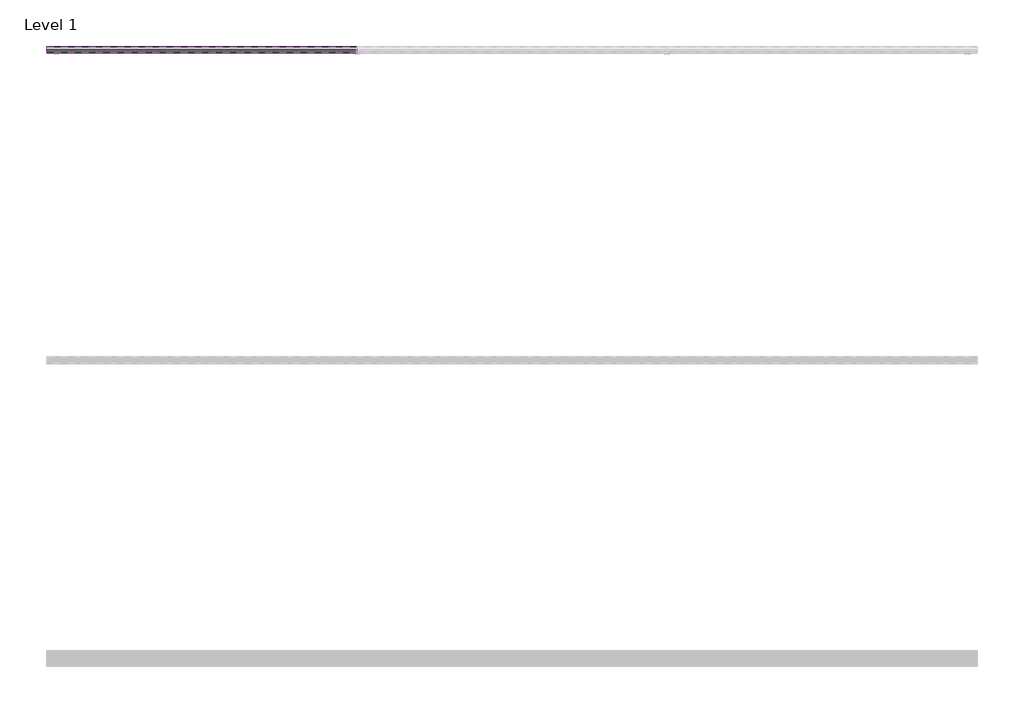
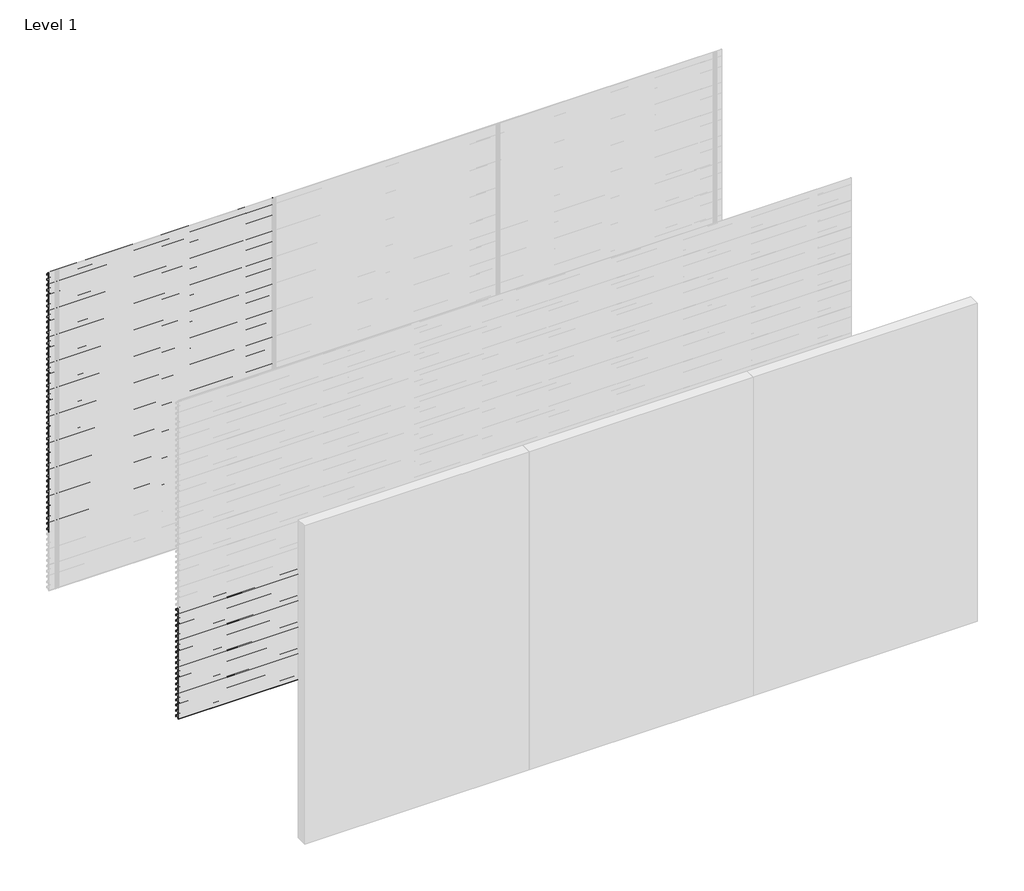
# One storey, part 36 of 38: 70 proxies.
"""IFC4 building model written with IfcOpenShell, lengths in millimetres."""

from ifc_helpers import new_model, si_unit, frame, origin, place, context, project, spatial, polyline, outline, extrude, element, save

model = new_model("IFC4")

# Units and contexts
model_context = context("Model", 3, world=origin())
ifc_project = project(units=[si_unit("LENGTHUNIT", "METRE", prefix="MILLI")], contexts=[model_context])

# Site, building, storey
site = spatial("IfcSite", under=ifc_project)
building = spatial("IfcBuilding", under=site)
storey = spatial("IfcBuildingStorey", under=building, Name="Level 1", Elevation=0.0)

# Proxies
placement = place(None, origin())
element("IfcBuildingElementProxy", 1, Name="Wall Sweeps", at=placement, inside=storey, context=model_context, shape_type="SweptSolid", body=[
    extrude(outline(polyline([(3.25, 3000.0), (3.25, 2989.19656), (25.3942887, 2976.4115489), (43.0, 2959.0472005), (43.0, 2944.0472005), (41.7, 2945.0268207), (41.7, 2958.5034593), (30.5085275, 2969.541504), (5.7202624, 2940.0), (4.0232329, 2940.0), (29.5799693, 2970.4573323), (24.6000207, 2975.3690091), (2.0, 2988.4171371), (2.0, 3000.0), (3.25, 3000.0)])), frame((0.0, 0.0, 0.0), z_axis=(1.0, 0.0, 0.0), x_axis=(0.0, 1.0, 0.0)), (0.0, 0.0, 1.0), 2000.0),
])
element("IfcBuildingElementProxy", 2, Name="Wall Sweeps", at=placement, inside=storey, context=model_context, shape_type="SweptSolid", body=[
    extrude(outline(polyline([(3.25, 2950.0), (3.25, 2939.19656), (25.3942887, 2926.4115489), (43.0, 2909.0472005), (43.0, 2894.0472005), (41.7, 2895.0268207), (41.7, 2908.5034593), (30.5085275, 2919.541504), (5.7202624, 2890.0), (4.0232329, 2890.0), (29.5799693, 2920.4573323), (24.6000207, 2925.3690091), (2.0, 2938.4171371), (2.0, 2950.0), (3.25, 2950.0)])), frame((0.0, 0.0, 0.0), z_axis=(1.0, 0.0, 0.0), x_axis=(0.0, 1.0, 0.0)), (0.0, 0.0, 1.0), 2000.0),
])
element("IfcBuildingElementProxy", 3, Name="Wall Sweeps", at=placement, inside=storey, context=model_context, shape_type="SweptSolid", body=[
    extrude(outline(polyline([(3.25, 2900.0), (3.25, 2889.19656), (25.3942887, 2876.4115489), (43.0, 2859.0472005), (43.0, 2844.0472005), (41.7, 2845.0268207), (41.7, 2858.5034593), (30.5085275, 2869.541504), (5.7202624, 2840.0), (4.0232329, 2840.0), (29.5799693, 2870.4573323), (24.6000207, 2875.3690091), (2.0, 2888.4171371), (2.0, 2900.0), (3.25, 2900.0)])), frame((0.0, 0.0, 0.0), z_axis=(1.0, 0.0, 0.0), x_axis=(0.0, 1.0, 0.0)), (0.0, 0.0, 1.0), 2000.0),
])
element("IfcBuildingElementProxy", 4, Name="Wall Sweeps", at=placement, inside=storey, context=model_context, shape_type="SweptSolid", body=[
    extrude(outline(polyline([(3.25, 2850.0), (3.25, 2839.19656), (25.3942887, 2826.4115489), (43.0, 2809.0472005), (43.0, 2794.0472005), (41.7, 2795.0268207), (41.7, 2808.5034593), (30.5085275, 2819.541504), (5.7202624, 2790.0), (4.0232329, 2790.0), (29.5799693, 2820.4573323), (24.6000207, 2825.3690091), (2.0, 2838.4171371), (2.0, 2850.0), (3.25, 2850.0)])), frame((0.0, 0.0, 0.0), z_axis=(1.0, 0.0, 0.0), x_axis=(0.0, 1.0, 0.0)), (0.0, 0.0, 1.0), 2000.0),
])
element("IfcBuildingElementProxy", 5, Name="Wall Sweeps", at=placement, inside=storey, context=model_context, shape_type="SweptSolid", body=[
    extrude(outline(polyline([(3.25, 2800.0), (3.25, 2789.19656), (25.3942887, 2776.4115489), (43.0, 2759.0472005), (43.0, 2744.0472005), (41.7, 2745.0268207), (41.7, 2758.5034593), (30.5085275, 2769.541504), (5.7202624, 2740.0), (4.0232329, 2740.0), (29.5799693, 2770.4573323), (24.6000207, 2775.3690091), (2.0, 2788.4171371), (2.0, 2800.0), (3.25, 2800.0)])), frame((0.0, 0.0, 0.0), z_axis=(1.0, 0.0, 0.0), x_axis=(0.0, 1.0, 0.0)), (0.0, 0.0, 1.0), 2000.0),
])
element("IfcBuildingElementProxy", 6, Name="Wall Sweeps", at=placement, inside=storey, context=model_context, shape_type="SweptSolid", body=[
    extrude(outline(polyline([(3.25, 2750.0), (3.25, 2739.19656), (25.3942887, 2726.4115489), (43.0, 2709.0472005), (43.0, 2694.0472005), (41.7, 2695.0268207), (41.7, 2708.5034593), (30.5085275, 2719.541504), (5.7202624, 2690.0), (4.0232329, 2690.0), (29.5799693, 2720.4573323), (24.6000207, 2725.3690091), (2.0, 2738.4171371), (2.0, 2750.0), (3.25, 2750.0)])), frame((0.0, 0.0, 0.0), z_axis=(1.0, 0.0, 0.0), x_axis=(0.0, 1.0, 0.0)), (0.0, 0.0, 1.0), 2000.0),
])
element("IfcBuildingElementProxy", 7, Name="Wall Sweeps", at=placement, inside=storey, context=model_context, shape_type="SweptSolid", body=[
    extrude(outline(polyline([(3.25, 2700.0), (3.25, 2689.19656), (25.3942887, 2676.4115489), (43.0, 2659.0472005), (43.0, 2644.0472005), (41.7, 2645.0268207), (41.7, 2658.5034593), (30.5085275, 2669.541504), (5.7202624, 2640.0), (4.0232329, 2640.0), (29.5799693, 2670.4573323), (24.6000207, 2675.3690091), (2.0, 2688.4171371), (2.0, 2700.0), (3.25, 2700.0)])), frame((0.0, 0.0, 0.0), z_axis=(1.0, 0.0, 0.0), x_axis=(0.0, 1.0, 0.0)), (0.0, 0.0, 1.0), 2000.0),
])
element("IfcBuildingElementProxy", 8, Name="Wall Sweeps", at=placement, inside=storey, context=model_context, shape_type="SweptSolid", body=[
    extrude(outline(polyline([(3.25, 2650.0), (3.25, 2639.19656), (25.3942887, 2626.4115489), (43.0, 2609.0472005), (43.0, 2594.0472005), (41.7, 2595.0268207), (41.7, 2608.5034593), (30.5085275, 2619.541504), (5.7202624, 2590.0), (4.0232329, 2590.0), (29.5799693, 2620.4573323), (24.6000207, 2625.3690091), (2.0, 2638.4171371), (2.0, 2650.0), (3.25, 2650.0)])), frame((0.0, 0.0, 0.0), z_axis=(1.0, 0.0, 0.0), x_axis=(0.0, 1.0, 0.0)), (0.0, 0.0, 1.0), 2000.0),
])
element("IfcBuildingElementProxy", 9, Name="Wall Sweeps", at=placement, inside=storey, context=model_context, shape_type="SweptSolid", body=[
    extrude(outline(polyline([(3.25, 2600.0), (3.25, 2589.19656), (25.3942887, 2576.4115489), (43.0, 2559.0472005), (43.0, 2544.0472005), (41.7, 2545.0268207), (41.7, 2558.5034593), (30.5085275, 2569.541504), (5.7202624, 2540.0), (4.0232329, 2540.0), (29.5799693, 2570.4573323), (24.6000207, 2575.3690091), (2.0, 2588.4171371), (2.0, 2600.0), (3.25, 2600.0)])), frame((0.0, 0.0, 0.0), z_axis=(1.0, 0.0, 0.0), x_axis=(0.0, 1.0, 0.0)), (0.0, 0.0, 1.0), 2000.0),
])
element("IfcBuildingElementProxy", 10, Name="Wall Sweeps", at=placement, inside=storey, context=model_context, shape_type="SweptSolid", body=[
    extrude(outline(polyline([(3.25, 2550.0), (3.25, 2539.19656), (25.3942887, 2526.4115489), (43.0, 2509.0472005), (43.0, 2494.0472005), (41.7, 2495.0268207), (41.7, 2508.5034593), (30.5085275, 2519.541504), (5.7202624, 2490.0), (4.0232329, 2490.0), (29.5799693, 2520.4573323), (24.6000207, 2525.3690091), (2.0, 2538.4171371), (2.0, 2550.0), (3.25, 2550.0)])), frame((0.0, 0.0, 0.0), z_axis=(1.0, 0.0, 0.0), x_axis=(0.0, 1.0, 0.0)), (0.0, 0.0, 1.0), 2000.0),
])
element("IfcBuildingElementProxy", 11, Name="Wall Sweeps", at=placement, inside=storey, context=model_context, shape_type="SweptSolid", body=[
    extrude(outline(polyline([(3.25, 2500.0), (3.25, 2489.19656), (25.3942887, 2476.4115489), (43.0, 2459.0472005), (43.0, 2444.0472005), (41.7, 2445.0268207), (41.7, 2458.5034593), (30.5085275, 2469.541504), (5.7202624, 2440.0), (4.0232329, 2440.0), (29.5799693, 2470.4573323), (24.6000207, 2475.3690091), (2.0, 2488.4171371), (2.0, 2500.0), (3.25, 2500.0)])), frame((0.0, 0.0, 0.0), z_axis=(1.0, 0.0, 0.0), x_axis=(0.0, 1.0, 0.0)), (0.0, 0.0, 1.0), 2000.0),
])
element("IfcBuildingElementProxy", 12, Name="Wall Sweeps", at=placement, inside=storey, context=model_context, shape_type="SweptSolid", body=[
    extrude(outline(polyline([(3.25, 2450.0), (3.25, 2439.19656), (25.3942887, 2426.4115489), (43.0, 2409.0472005), (43.0, 2394.0472005), (41.7, 2395.0268207), (41.7, 2408.5034593), (30.5085275, 2419.541504), (5.7202624, 2390.0), (4.0232329, 2390.0), (29.5799693, 2420.4573323), (24.6000207, 2425.3690091), (2.0, 2438.4171371), (2.0, 2450.0), (3.25, 2450.0)])), frame((0.0, 0.0, 0.0), z_axis=(1.0, 0.0, 0.0), x_axis=(0.0, 1.0, 0.0)), (0.0, 0.0, 1.0), 2000.0),
])
element("IfcBuildingElementProxy", 13, Name="Wall Sweeps", at=placement, inside=storey, context=model_context, shape_type="SweptSolid", body=[
    extrude(outline(polyline([(3.25, 2400.0), (3.25, 2389.19656), (25.3942887, 2376.4115489), (43.0, 2359.0472005), (43.0, 2344.0472005), (41.7, 2345.0268207), (41.7, 2358.5034593), (30.5085275, 2369.541504), (5.7202624, 2340.0), (4.0232329, 2340.0), (29.5799693, 2370.4573323), (24.6000207, 2375.3690091), (2.0, 2388.4171371), (2.0, 2400.0), (3.25, 2400.0)])), frame((0.0, 0.0, 0.0), z_axis=(1.0, 0.0, 0.0), x_axis=(0.0, 1.0, 0.0)), (0.0, 0.0, 1.0), 2000.0),
])
element("IfcBuildingElementProxy", 14, Name="Wall Sweeps", at=placement, inside=storey, context=model_context, shape_type="SweptSolid", body=[
    extrude(outline(polyline([(3.25, 2350.0), (3.25, 2339.19656), (25.3942887, 2326.4115489), (43.0, 2309.0472005), (43.0, 2294.0472005), (41.7, 2295.0268207), (41.7, 2308.5034593), (30.5085275, 2319.541504), (5.7202624, 2290.0), (4.0232329, 2290.0), (29.5799693, 2320.4573323), (24.6000207, 2325.3690091), (2.0, 2338.4171371), (2.0, 2350.0), (3.25, 2350.0)])), frame((0.0, 0.0, 0.0), z_axis=(1.0, 0.0, 0.0), x_axis=(0.0, 1.0, 0.0)), (0.0, 0.0, 1.0), 2000.0),
])
element("IfcBuildingElementProxy", 15, Name="Wall Sweeps", at=placement, inside=storey, context=model_context, shape_type="SweptSolid", body=[
    extrude(outline(polyline([(3.25, 2300.0), (3.25, 2289.19656), (25.3942887, 2276.4115489), (43.0, 2259.0472005), (43.0, 2244.0472005), (41.7, 2245.0268207), (41.7, 2258.5034593), (30.5085275, 2269.541504), (5.7202624, 2240.0), (4.0232329, 2240.0), (29.5799693, 2270.4573323), (24.6000207, 2275.3690091), (2.0, 2288.4171371), (2.0, 2300.0), (3.25, 2300.0)])), frame((0.0, 0.0, 0.0), z_axis=(1.0, 0.0, 0.0), x_axis=(0.0, 1.0, 0.0)), (0.0, 0.0, 1.0), 2000.0),
])
element("IfcBuildingElementProxy", 16, Name="Wall Sweeps", at=placement, inside=storey, context=model_context, shape_type="SweptSolid", body=[
    extrude(outline(polyline([(3.25, 2250.0), (3.25, 2239.19656), (25.3942887, 2226.4115489), (43.0, 2209.0472005), (43.0, 2194.0472005), (41.7, 2195.0268207), (41.7, 2208.5034593), (30.5085275, 2219.541504), (5.7202624, 2190.0), (4.0232329, 2190.0), (29.5799693, 2220.4573323), (24.6000207, 2225.3690091), (2.0, 2238.4171371), (2.0, 2250.0), (3.25, 2250.0)])), frame((0.0, 0.0, 0.0), z_axis=(1.0, 0.0, 0.0), x_axis=(0.0, 1.0, 0.0)), (0.0, 0.0, 1.0), 2000.0),
])
element("IfcBuildingElementProxy", 17, Name="Wall Sweeps", at=placement, inside=storey, context=model_context, shape_type="SweptSolid", body=[
    extrude(outline(polyline([(3.25, 2200.0), (3.25, 2189.19656), (25.3942887, 2176.4115489), (43.0, 2159.0472005), (43.0, 2144.0472005), (41.7, 2145.0268207), (41.7, 2158.5034593), (30.5085275, 2169.541504), (5.7202624, 2140.0), (4.0232329, 2140.0), (29.5799693, 2170.4573323), (24.6000207, 2175.3690091), (2.0, 2188.4171371), (2.0, 2200.0), (3.25, 2200.0)])), frame((0.0, 0.0, 0.0), z_axis=(1.0, 0.0, 0.0), x_axis=(0.0, 1.0, 0.0)), (0.0, 0.0, 1.0), 2000.0),
])
element("IfcBuildingElementProxy", 18, Name="Wall Sweeps", at=placement, inside=storey, context=model_context, shape_type="SweptSolid", body=[
    extrude(outline(polyline([(3.25, 2150.0), (3.25, 2139.19656), (25.3942887, 2126.4115489), (43.0, 2109.0472005), (43.0, 2094.0472005), (41.7, 2095.0268207), (41.7, 2108.5034593), (30.5085275, 2119.541504), (5.7202624, 2090.0), (4.0232329, 2090.0), (29.5799693, 2120.4573323), (24.6000207, 2125.3690091), (2.0, 2138.4171371), (2.0, 2150.0), (3.25, 2150.0)])), frame((0.0, 0.0, 0.0), z_axis=(1.0, 0.0, 0.0), x_axis=(0.0, 1.0, 0.0)), (0.0, 0.0, 1.0), 2000.0),
])
element("IfcBuildingElementProxy", 19, Name="Wall Sweeps", at=placement, inside=storey, context=model_context, shape_type="SweptSolid", body=[
    extrude(outline(polyline([(3.25, 2100.0), (3.25, 2089.19656), (25.3942887, 2076.4115489), (43.0, 2059.0472005), (43.0, 2044.0472005), (41.7, 2045.0268207), (41.7, 2058.5034593), (30.5085275, 2069.541504), (5.7202624, 2040.0), (4.0232329, 2040.0), (29.5799693, 2070.4573323), (24.6000207, 2075.3690091), (2.0, 2088.4171371), (2.0, 2100.0), (3.25, 2100.0)])), frame((0.0, 0.0, 0.0), z_axis=(1.0, 0.0, 0.0), x_axis=(0.0, 1.0, 0.0)), (0.0, 0.0, 1.0), 2000.0),
])
element("IfcBuildingElementProxy", 20, Name="Wall Sweeps", at=placement, inside=storey, context=model_context, shape_type="SweptSolid", body=[
    extrude(outline(polyline([(3.25, 2050.0), (3.25, 2039.19656), (25.3942887, 2026.4115489), (43.0, 2009.0472005), (43.0, 1994.0472005), (41.7, 1995.0268207), (41.7, 2008.5034593), (30.5085275, 2019.541504), (5.7202624, 1990.0), (4.0232329, 1990.0), (29.5799693, 2020.4573323), (24.6000207, 2025.3690091), (2.0, 2038.4171371), (2.0, 2050.0), (3.25, 2050.0)])), frame((0.0, 0.0, 0.0), z_axis=(1.0, 0.0, 0.0), x_axis=(0.0, 1.0, 0.0)), (0.0, 0.0, 1.0), 2000.0),
])
element("IfcBuildingElementProxy", 21, Name="Wall Sweeps", at=placement, inside=storey, context=model_context, shape_type="SweptSolid", body=[
    extrude(outline(polyline([(3.25, 2000.0), (3.25, 1989.19656), (25.3942887, 1976.4115489), (43.0, 1959.0472005), (43.0, 1944.0472005), (41.7, 1945.0268207), (41.7, 1958.5034593), (30.5085275, 1969.541504), (5.7202624, 1940.0), (4.0232329, 1940.0), (29.5799693, 1970.4573323), (24.6000207, 1975.3690091), (2.0, 1988.4171371), (2.0, 2000.0), (3.25, 2000.0)])), frame((0.0, 0.0, 0.0), z_axis=(1.0, 0.0, 0.0), x_axis=(0.0, 1.0, 0.0)), (0.0, 0.0, 1.0), 2000.0),
])
element("IfcBuildingElementProxy", 22, Name="Wall Sweeps", at=placement, inside=storey, context=model_context, shape_type="SweptSolid", body=[
    extrude(outline(polyline([(3.25, 1950.0), (3.25, 1939.19656), (25.3942887, 1926.4115489), (43.0, 1909.0472005), (43.0, 1894.0472005), (41.7, 1895.0268207), (41.7, 1908.5034593), (30.5085275, 1919.541504), (5.7202624, 1890.0), (4.0232329, 1890.0), (29.5799693, 1920.4573323), (24.6000207, 1925.3690091), (2.0, 1938.4171371), (2.0, 1950.0), (3.25, 1950.0)])), frame((0.0, 0.0, 0.0), z_axis=(1.0, 0.0, 0.0), x_axis=(0.0, 1.0, 0.0)), (0.0, 0.0, 1.0), 2000.0),
])
element("IfcBuildingElementProxy", 23, Name="Wall Sweeps", at=placement, inside=storey, context=model_context, shape_type="SweptSolid", body=[
    extrude(outline(polyline([(3.25, 1900.0), (3.25, 1889.19656), (25.3942887, 1876.4115489), (43.0, 1859.0472005), (43.0, 1844.0472005), (41.7, 1845.0268207), (41.7, 1858.5034593), (30.5085275, 1869.541504), (5.7202624, 1840.0), (4.0232329, 1840.0), (29.5799693, 1870.4573323), (24.6000207, 1875.3690091), (2.0, 1888.4171371), (2.0, 1900.0), (3.25, 1900.0)])), frame((0.0, 0.0, 0.0), z_axis=(1.0, 0.0, 0.0), x_axis=(0.0, 1.0, 0.0)), (0.0, 0.0, 1.0), 2000.0),
])
element("IfcBuildingElementProxy", 24, Name="Wall Sweeps", at=placement, inside=storey, context=model_context, shape_type="SweptSolid", body=[
    extrude(outline(polyline([(3.25, 1850.0), (3.25, 1839.19656), (25.3942887, 1826.4115489), (43.0, 1809.0472005), (43.0, 1794.0472005), (41.7, 1795.0268207), (41.7, 1808.5034593), (30.5085275, 1819.541504), (5.7202624, 1790.0), (4.0232329, 1790.0), (29.5799693, 1820.4573323), (24.6000207, 1825.3690091), (2.0, 1838.4171371), (2.0, 1850.0), (3.25, 1850.0)])), frame((0.0, 0.0, 0.0), z_axis=(1.0, 0.0, 0.0), x_axis=(0.0, 1.0, 0.0)), (0.0, 0.0, 1.0), 2000.0),
])
element("IfcBuildingElementProxy", 25, Name="Wall Sweeps", at=placement, inside=storey, context=model_context, shape_type="SweptSolid", body=[
    extrude(outline(polyline([(3.25, 1800.0), (3.25, 1789.19656), (25.3942887, 1776.4115489), (43.0, 1759.0472005), (43.0, 1744.0472005), (41.7, 1745.0268207), (41.7, 1758.5034593), (30.5085275, 1769.541504), (5.7202624, 1740.0), (4.0232329, 1740.0), (29.5799693, 1770.4573323), (24.6000207, 1775.3690091), (2.0, 1788.4171371), (2.0, 1800.0), (3.25, 1800.0)])), frame((0.0, 0.0, 0.0), z_axis=(1.0, 0.0, 0.0), x_axis=(0.0, 1.0, 0.0)), (0.0, 0.0, 1.0), 2000.0),
])
element("IfcBuildingElementProxy", 26, Name="Wall Sweeps", at=placement, inside=storey, context=model_context, shape_type="SweptSolid", body=[
    extrude(outline(polyline([(3.25, 1750.0), (3.25, 1739.19656), (25.3942887, 1726.4115489), (43.0, 1709.0472005), (43.0, 1694.0472005), (41.7, 1695.0268207), (41.7, 1708.5034593), (30.5085275, 1719.541504), (5.7202624, 1690.0), (4.0232329, 1690.0), (29.5799693, 1720.4573323), (24.6000207, 1725.3690091), (2.0, 1738.4171371), (2.0, 1750.0), (3.25, 1750.0)])), frame((0.0, 0.0, 0.0), z_axis=(1.0, 0.0, 0.0), x_axis=(0.0, 1.0, 0.0)), (0.0, 0.0, 1.0), 2000.0),
])
element("IfcBuildingElementProxy", 27, Name="Wall Sweeps", at=placement, inside=storey, context=model_context, shape_type="SweptSolid", body=[
    extrude(outline(polyline([(3.25, 1700.0), (3.25, 1689.19656), (25.3942887, 1676.4115489), (43.0, 1659.0472005), (43.0, 1644.0472005), (41.7, 1645.0268207), (41.7, 1658.5034593), (30.5085275, 1669.541504), (5.7202624, 1640.0), (4.0232329, 1640.0), (29.5799693, 1670.4573323), (24.6000207, 1675.3690091), (2.0, 1688.4171371), (2.0, 1700.0), (3.25, 1700.0)])), frame((0.0, 0.0, 0.0), z_axis=(1.0, 0.0, 0.0), x_axis=(0.0, 1.0, 0.0)), (0.0, 0.0, 1.0), 2000.0),
])
element("IfcBuildingElementProxy", 28, Name="Wall Sweeps", at=placement, inside=storey, context=model_context, shape_type="SweptSolid", body=[
    extrude(outline(polyline([(3.25, 1650.0), (3.25, 1639.19656), (25.3942887, 1626.4115489), (43.0, 1609.0472005), (43.0, 1594.0472005), (41.7, 1595.0268207), (41.7, 1608.5034593), (30.5085275, 1619.541504), (5.7202624, 1590.0), (4.0232329, 1590.0), (29.5799693, 1620.4573323), (24.6000207, 1625.3690091), (2.0, 1638.4171371), (2.0, 1650.0), (3.25, 1650.0)])), frame((0.0, 0.0, 0.0), z_axis=(1.0, 0.0, 0.0), x_axis=(0.0, 1.0, 0.0)), (0.0, 0.0, 1.0), 2000.0),
])
element("IfcBuildingElementProxy", 29, Name="Wall Sweeps", at=placement, inside=storey, context=model_context, shape_type="SweptSolid", body=[
    extrude(outline(polyline([(3.25, 1600.0), (3.25, 1589.19656), (25.3942887, 1576.4115489), (43.0, 1559.0472005), (43.0, 1544.0472005), (41.7, 1545.0268207), (41.7, 1558.5034593), (30.5085275, 1569.541504), (5.7202624, 1540.0), (4.0232329, 1540.0), (29.5799693, 1570.4573323), (24.6000207, 1575.3690091), (2.0, 1588.4171371), (2.0, 1600.0), (3.25, 1600.0)])), frame((0.0, 0.0, 0.0), z_axis=(1.0, 0.0, 0.0), x_axis=(0.0, 1.0, 0.0)), (0.0, 0.0, 1.0), 2000.0),
])
element("IfcBuildingElementProxy", 30, Name="Wall Sweeps", at=placement, inside=storey, context=model_context, shape_type="SweptSolid", body=[
    extrude(outline(polyline([(3.25, 1550.0), (3.25, 1539.19656), (25.3942887, 1526.4115489), (43.0, 1509.0472005), (43.0, 1494.0472005), (41.7, 1495.0268207), (41.7, 1508.5034593), (30.5085275, 1519.541504), (5.7202624, 1490.0), (4.0232329, 1490.0), (29.5799693, 1520.4573323), (24.6000207, 1525.3690091), (2.0, 1538.4171371), (2.0, 1550.0), (3.25, 1550.0)])), frame((0.0, 0.0, 0.0), z_axis=(1.0, 0.0, 0.0), x_axis=(0.0, 1.0, 0.0)), (0.0, 0.0, 1.0), 2000.0),
])
element("IfcBuildingElementProxy", 31, Name="Wall Sweeps", at=placement, inside=storey, context=model_context, shape_type="SweptSolid", body=[
    extrude(outline(polyline([(3.25, 1500.0), (3.25, 1489.19656), (25.3942887, 1476.4115489), (43.0, 1459.0472005), (43.0, 1444.0472005), (41.7, 1445.0268207), (41.7, 1458.5034593), (30.5085275, 1469.541504), (5.7202624, 1440.0), (4.0232329, 1440.0), (29.5799693, 1470.4573323), (24.6000207, 1475.3690091), (2.0, 1488.4171371), (2.0, 1500.0), (3.25, 1500.0)])), frame((0.0, 0.0, 0.0), z_axis=(1.0, 0.0, 0.0), x_axis=(0.0, 1.0, 0.0)), (0.0, 0.0, 1.0), 2000.0),
])
element("IfcBuildingElementProxy", 32, Name="Wall Sweeps", at=placement, inside=storey, context=model_context, shape_type="SweptSolid", body=[
    extrude(outline(polyline([(3.25, 1450.0), (3.25, 1439.19656), (25.3942887, 1426.4115489), (43.0, 1409.0472005), (43.0, 1394.0472005), (41.7, 1395.0268207), (41.7, 1408.5034593), (30.5085275, 1419.541504), (5.7202624, 1390.0), (4.0232329, 1390.0), (29.5799693, 1420.4573323), (24.6000207, 1425.3690091), (2.0, 1438.4171371), (2.0, 1450.0), (3.25, 1450.0)])), frame((0.0, 0.0, 0.0), z_axis=(1.0, 0.0, 0.0), x_axis=(0.0, 1.0, 0.0)), (0.0, 0.0, 1.0), 2000.0),
])
element("IfcBuildingElementProxy", 33, Name="Wall Sweeps", at=placement, inside=storey, context=model_context, shape_type="SweptSolid", body=[
    extrude(outline(polyline([(3.25, 1400.0), (3.25, 1389.19656), (25.3942887, 1376.4115489), (43.0, 1359.0472005), (43.0, 1344.0472005), (41.7, 1345.0268207), (41.7, 1358.5034593), (30.5085275, 1369.541504), (5.7202624, 1340.0), (4.0232329, 1340.0), (29.5799693, 1370.4573323), (24.6000207, 1375.3690091), (2.0, 1388.4171371), (2.0, 1400.0), (3.25, 1400.0)])), frame((0.0, 0.0, 0.0), z_axis=(1.0, 0.0, 0.0), x_axis=(0.0, 1.0, 0.0)), (0.0, 0.0, 1.0), 2000.0),
])
element("IfcBuildingElementProxy", 34, Name="Wall Sweeps", at=placement, inside=storey, context=model_context, shape_type="SweptSolid", body=[
    extrude(outline(polyline([(3.25, 1350.0), (3.25, 1339.19656), (25.3942887, 1326.4115489), (43.0, 1309.0472005), (43.0, 1294.0472005), (41.7, 1295.0268207), (41.7, 1308.5034593), (30.5085275, 1319.541504), (5.7202624, 1290.0), (4.0232329, 1290.0), (29.5799693, 1320.4573323), (24.6000207, 1325.3690091), (2.0, 1338.4171371), (2.0, 1350.0), (3.25, 1350.0)])), frame((0.0, 0.0, 0.0), z_axis=(1.0, 0.0, 0.0), x_axis=(0.0, 1.0, 0.0)), (0.0, 0.0, 1.0), 2000.0),
])
element("IfcBuildingElementProxy", 35, Name="Wall Sweeps", at=placement, inside=storey, context=model_context, shape_type="SweptSolid", body=[
    extrude(outline(polyline([(3.25, 1300.0), (3.25, 1289.19656), (25.3942887, 1276.4115489), (43.0, 1259.0472005), (43.0, 1244.0472005), (41.7, 1245.0268207), (41.7, 1258.5034593), (30.5085275, 1269.541504), (5.7202624, 1240.0), (4.0232329, 1240.0), (29.5799693, 1270.4573323), (24.6000207, 1275.3690091), (2.0, 1288.4171371), (2.0, 1300.0), (3.25, 1300.0)])), frame((0.0, 0.0, 0.0), z_axis=(1.0, 0.0, 0.0), x_axis=(0.0, 1.0, 0.0)), (0.0, 0.0, 1.0), 2000.0),
])
element("IfcBuildingElementProxy", 36, Name="Wall Sweeps", at=placement, inside=storey, context=model_context, shape_type="SweptSolid", body=[
    extrude(outline(polyline([(3.25, 1250.0), (3.25, 1239.19656), (25.3942887, 1226.4115489), (43.0, 1209.0472005), (43.0, 1194.0472005), (41.7, 1195.0268207), (41.7, 1208.5034593), (30.5085275, 1219.541504), (5.7202624, 1190.0), (4.0232329, 1190.0), (29.5799693, 1220.4573323), (24.6000207, 1225.3690091), (2.0, 1238.4171371), (2.0, 1250.0), (3.25, 1250.0)])), frame((0.0, 0.0, 0.0), z_axis=(1.0, 0.0, 0.0), x_axis=(0.0, 1.0, 0.0)), (0.0, 0.0, 1.0), 2000.0),
])
element("IfcBuildingElementProxy", 37, Name="Wall Sweeps", at=placement, inside=storey, context=model_context, shape_type="SweptSolid", body=[
    extrude(outline(polyline([(3.25, 1200.0), (3.25, 1189.19656), (25.3942887, 1176.4115489), (43.0, 1159.0472005), (43.0, 1144.0472005), (41.7, 1145.0268207), (41.7, 1158.5034593), (30.5085275, 1169.541504), (5.7202624, 1140.0), (4.0232329, 1140.0), (29.5799693, 1170.4573323), (24.6000207, 1175.3690091), (2.0, 1188.4171371), (2.0, 1200.0), (3.25, 1200.0)])), frame((0.0, 0.0, 0.0), z_axis=(1.0, 0.0, 0.0), x_axis=(0.0, 1.0, 0.0)), (0.0, 0.0, 1.0), 2000.0),
])
element("IfcBuildingElementProxy", 38, Name="Wall Sweeps", at=placement, inside=storey, context=model_context, shape_type="SweptSolid", body=[
    extrude(outline(polyline([(3.25, 1150.0), (3.25, 1139.19656), (25.3942887, 1126.4115489), (43.0, 1109.0472005), (43.0, 1094.0472005), (41.7, 1095.0268207), (41.7, 1108.5034593), (30.5085275, 1119.541504), (5.7202624, 1090.0), (4.0232329, 1090.0), (29.5799693, 1120.4573323), (24.6000207, 1125.3690091), (2.0, 1138.4171371), (2.0, 1150.0), (3.25, 1150.0)])), frame((0.0, 0.0, 0.0), z_axis=(1.0, 0.0, 0.0), x_axis=(0.0, 1.0, 0.0)), (0.0, 0.0, 1.0), 2000.0),
])
element("IfcBuildingElementProxy", 39, Name="Wall Sweeps", at=placement, inside=storey, context=model_context, shape_type="SweptSolid", body=[
    extrude(outline(polyline([(3.25, 1100.0), (3.25, 1089.19656), (25.3942887, 1076.4115489), (43.0, 1059.0472005), (43.0, 1044.0472005), (41.7, 1045.0268207), (41.7, 1058.5034593), (30.5085275, 1069.541504), (5.7202624, 1040.0), (4.0232329, 1040.0), (29.5799693, 1070.4573323), (24.6000207, 1075.3690091), (2.0, 1088.4171371), (2.0, 1100.0), (3.25, 1100.0)])), frame((0.0, 0.0, 0.0), z_axis=(1.0, 0.0, 0.0), x_axis=(0.0, 1.0, 0.0)), (0.0, 0.0, 1.0), 2000.0),
])
element("IfcBuildingElementProxy", 40, Name="Wall Sweeps", at=placement, inside=storey, context=model_context, shape_type="SweptSolid", body=[
    extrude(outline(polyline([(3.25, 1050.0), (3.25, 1039.19656), (25.3942887, 1026.4115489), (43.0, 1009.0472005), (43.0, 994.0472005), (41.7, 995.0268207), (41.7, 1008.5034593), (30.5085275, 1019.541504), (5.7202624, 990.0), (4.0232329, 990.0), (29.5799693, 1020.4573323), (24.6000207, 1025.3690091), (2.0, 1038.4171371), (2.0, 1050.0), (3.25, 1050.0)])), frame((0.0, 0.0, 0.0), z_axis=(1.0, 0.0, 0.0), x_axis=(0.0, 1.0, 0.0)), (0.0, 0.0, 1.0), 2000.0),
])
element("IfcBuildingElementProxy", 41, Name="Wall Sweeps", at=placement, inside=storey, context=model_context, shape_type="SweptSolid", body=[
    extrude(outline(polyline([(3.25, 1000.0), (3.25, 989.19656), (25.3942887, 976.4115489), (43.0, 959.0472005), (43.0, 944.0472005), (41.7, 945.0268207), (41.7, 958.5034593), (30.5085275, 969.541504), (5.7202624, 940.0), (4.0232329, 940.0), (29.5799693, 970.4573323), (24.6000207, 975.3690091), (2.0, 988.4171371), (2.0, 1000.0), (3.25, 1000.0)])), frame((0.0, 0.0, 0.0), z_axis=(1.0, 0.0, 0.0), x_axis=(0.0, 1.0, 0.0)), (0.0, 0.0, 1.0), 2000.0),
])
element("IfcBuildingElementProxy", 42, Name="Wall Sweeps", at=placement, inside=storey, context=model_context, shape_type="SweptSolid", body=[
    extrude(outline(polyline([(3.25, 950.0), (3.25, 939.19656), (25.3942887, 926.4115489), (43.0, 909.0472005), (43.0, 894.0472005), (41.7, 895.0268207), (41.7, 908.5034593), (30.5085275, 919.541504), (5.7202624, 890.0), (4.0232329, 890.0), (29.5799693, 920.4573323), (24.6000207, 925.3690091), (2.0, 938.4171371), (2.0, 950.0), (3.25, 950.0)])), frame((0.0, 0.0, 0.0), z_axis=(1.0, 0.0, 0.0), x_axis=(0.0, 1.0, 0.0)), (0.0, 0.0, 1.0), 2000.0),
])
element("IfcBuildingElementProxy", 43, Name="Wall Sweeps", at=placement, inside=storey, context=model_context, shape_type="SweptSolid", body=[
    extrude(outline(polyline([(3.25, 900.0), (3.25, 889.19656), (25.3942887, 876.4115489), (43.0, 859.0472005), (43.0, 844.0472005), (41.7, 845.0268207), (41.7, 858.5034593), (30.5085275, 869.541504), (5.7202624, 840.0), (4.0232329, 840.0), (29.5799693, 870.4573323), (24.6000207, 875.3690091), (2.0, 888.4171371), (2.0, 900.0), (3.25, 900.0)])), frame((0.0, 0.0, 0.0), z_axis=(1.0, 0.0, 0.0), x_axis=(0.0, 1.0, 0.0)), (0.0, 0.0, 1.0), 2000.0),
])
element("IfcBuildingElementProxy", 44, Name="Wall Sweeps", at=placement, inside=storey, context=model_context, shape_type="SweptSolid", body=[
    extrude(outline(polyline([(3.25, 850.0), (3.25, 839.19656), (25.3942887, 826.4115489), (43.0, 809.0472005), (43.0, 794.0472005), (41.7, 795.0268207), (41.7, 808.5034593), (30.5085275, 819.541504), (5.7202624, 790.0), (4.0232329, 790.0), (29.5799693, 820.4573323), (24.6000207, 825.3690091), (2.0, 838.4171371), (2.0, 850.0), (3.25, 850.0)])), frame((0.0, 0.0, 0.0), z_axis=(1.0, 0.0, 0.0), x_axis=(0.0, 1.0, 0.0)), (0.0, 0.0, 1.0), 2000.0),
])
element("IfcBuildingElementProxy", 45, Name="Wall Sweeps", at=placement, inside=storey, context=model_context, shape_type="SweptSolid", body=[
    extrude(outline(polyline([(3.25, 800.0), (3.25, 789.19656), (25.3942887, 776.4115489), (43.0, 759.0472005), (43.0, 744.0472005), (41.7, 745.0268207), (41.7, 758.5034593), (30.5085275, 769.541504), (5.7202624, 740.0), (4.0232329, 740.0), (29.5799693, 770.4573323), (24.6000207, 775.3690091), (2.0, 788.4171371), (2.0, 800.0), (3.25, 800.0)])), frame((0.0, 0.0, 0.0), z_axis=(1.0, 0.0, 0.0), x_axis=(0.0, 1.0, 0.0)), (0.0, 0.0, 1.0), 2000.0),
])
element("IfcBuildingElementProxy", 46, Name="Wall Sweeps", at=placement, inside=storey, context=model_context, shape_type="SweptSolid", body=[
    extrude(outline(polyline([(3.25, 750.0), (3.25, 739.19656), (25.3942887, 726.4115489), (43.0, 709.0472005), (43.0, 694.0472005), (41.7, 695.0268207), (41.7, 708.5034593), (30.5085275, 719.541504), (5.7202624, 690.0), (4.0232329, 690.0), (29.5799693, 720.4573323), (24.6000207, 725.3690091), (2.0, 738.4171371), (2.0, 750.0), (3.25, 750.0)])), frame((0.0, 0.0, 0.0), z_axis=(1.0, 0.0, 0.0), x_axis=(0.0, 1.0, 0.0)), (0.0, 0.0, 1.0), 2000.0),
])
element("IfcBuildingElementProxy", 47, Name="Wall Sweeps", at=placement, inside=storey, context=model_context, shape_type="SweptSolid", body=[
    extrude(outline(polyline([(3.25, 700.0), (3.25, 689.19656), (25.3942887, 676.4115489), (43.0, 659.0472005), (43.0, 644.0472005), (41.7, 645.0268207), (41.7, 658.5034593), (30.5085275, 669.541504), (5.7202624, 640.0), (4.0232329, 640.0), (29.5799693, 670.4573323), (24.6000207, 675.3690091), (2.0, 688.4171371), (2.0, 700.0), (3.25, 700.0)])), frame((0.0, 0.0, 0.0), z_axis=(1.0, 0.0, 0.0), x_axis=(0.0, 1.0, 0.0)), (0.0, 0.0, 1.0), 2000.0),
])
element("IfcBuildingElementProxy", 48, Name="Wall Sweeps", at=placement, inside=storey, context=model_context, shape_type="SweptSolid", body=[
    extrude(outline(polyline([(3.25, 650.0), (3.25, 639.19656), (25.3942887, 626.4115489), (43.0, 609.0472005), (43.0, 594.0472005), (41.7, 595.0268207), (41.7, 608.5034593), (30.5085275, 619.541504), (5.7202624, 590.0), (4.0232329, 590.0), (29.5799693, 620.4573323), (24.6000207, 625.3690091), (2.0, 638.4171371), (2.0, 650.0), (3.25, 650.0)])), frame((0.0, 0.0, 0.0), z_axis=(1.0, 0.0, 0.0), x_axis=(0.0, 1.0, 0.0)), (0.0, 0.0, 1.0), 2000.0),
])
element("IfcBuildingElementProxy", 49, Name="Wall Sweeps", at=placement, inside=storey, context=model_context, shape_type="SweptSolid", body=[
    extrude(outline(polyline([(3.25, 600.0), (3.25, 589.19656), (25.3942887, 576.4115489), (43.0, 559.0472005), (43.0, 544.0472005), (41.7, 545.0268207), (41.7, 558.5034593), (30.5085275, 569.541504), (5.7202624, 540.0), (4.0232329, 540.0), (29.5799693, 570.4573323), (24.6000207, 575.3690091), (2.0, 588.4171371), (2.0, 600.0), (3.25, 600.0)])), frame((0.0, 0.0, 0.0), z_axis=(1.0, 0.0, 0.0), x_axis=(0.0, 1.0, 0.0)), (0.0, 0.0, 1.0), 2000.0),
])
element("IfcBuildingElementProxy", 50, Name="Wall Sweeps", at=placement, inside=storey, context=model_context, shape_type="SweptSolid", body=[
    extrude(outline(polyline([(-1996.75, 1050.0), (-1996.75, 1039.19656), (-1974.6057113, 1026.4115489), (-1957.0, 1009.0472005), (-1957.0, 994.0472005), (-1958.3, 995.0268207), (-1958.3, 1008.5034593), (-1969.4914725, 1019.541504), (-1994.2797376, 990.0), (-1995.9767671, 990.0), (-1970.4200307, 1020.4573323), (-1975.3999793, 1025.3690091), (-1998.0, 1038.4171371), (-1998.0, 1050.0), (-1996.75, 1050.0)])), frame((0.0, 0.0, 0.0), z_axis=(1.0, 0.0, 0.0), x_axis=(0.0, 1.0, 0.0)), (0.0, 0.0, 1.0), 6000.0),
])
element("IfcBuildingElementProxy", 51, Name="Wall Sweeps", at=placement, inside=storey, context=model_context, shape_type="SweptSolid", body=[
    extrude(outline(polyline([(-1996.75, 1000.0), (-1996.75, 989.19656), (-1974.6057113, 976.4115489), (-1957.0, 959.0472005), (-1957.0, 944.0472005), (-1958.3, 945.0268207), (-1958.3, 958.5034593), (-1969.4914725, 969.541504), (-1994.2797376, 940.0), (-1995.9767671, 940.0), (-1970.4200307, 970.4573323), (-1975.3999793, 975.3690091), (-1998.0, 988.4171371), (-1998.0, 1000.0), (-1996.75, 1000.0)])), frame((0.0, 0.0, 0.0), z_axis=(1.0, 0.0, 0.0), x_axis=(0.0, 1.0, 0.0)), (0.0, 0.0, 1.0), 6000.0),
])
element("IfcBuildingElementProxy", 52, Name="Wall Sweeps", at=placement, inside=storey, context=model_context, shape_type="SweptSolid", body=[
    extrude(outline(polyline([(-1996.75, 950.0), (-1996.75, 939.19656), (-1974.6057113, 926.4115489), (-1957.0, 909.0472005), (-1957.0, 894.0472005), (-1958.3, 895.0268207), (-1958.3, 908.5034593), (-1969.4914725, 919.541504), (-1994.2797376, 890.0), (-1995.9767671, 890.0), (-1970.4200307, 920.4573323), (-1975.3999793, 925.3690091), (-1998.0, 938.4171371), (-1998.0, 950.0), (-1996.75, 950.0)])), frame((0.0, 0.0, 0.0), z_axis=(1.0, 0.0, 0.0), x_axis=(0.0, 1.0, 0.0)), (0.0, 0.0, 1.0), 6000.0),
])
element("IfcBuildingElementProxy", 53, Name="Wall Sweeps", at=placement, inside=storey, context=model_context, shape_type="SweptSolid", body=[
    extrude(outline(polyline([(-1996.75, 900.0), (-1996.75, 889.19656), (-1974.6057113, 876.4115489), (-1957.0, 859.0472005), (-1957.0, 844.0472005), (-1958.3, 845.0268207), (-1958.3, 858.5034593), (-1969.4914725, 869.541504), (-1994.2797376, 840.0), (-1995.9767671, 840.0), (-1970.4200307, 870.4573323), (-1975.3999793, 875.3690091), (-1998.0, 888.4171371), (-1998.0, 900.0), (-1996.75, 900.0)])), frame((0.0, 0.0, 0.0), z_axis=(1.0, 0.0, 0.0), x_axis=(0.0, 1.0, 0.0)), (0.0, 0.0, 1.0), 6000.0),
])
element("IfcBuildingElementProxy", 54, Name="Wall Sweeps", at=placement, inside=storey, context=model_context, shape_type="SweptSolid", body=[
    extrude(outline(polyline([(-1996.75, 850.0), (-1996.75, 839.19656), (-1974.6057113, 826.4115489), (-1957.0, 809.0472005), (-1957.0, 794.0472005), (-1958.3, 795.0268207), (-1958.3, 808.5034593), (-1969.4914725, 819.541504), (-1994.2797376, 790.0), (-1995.9767671, 790.0), (-1970.4200307, 820.4573323), (-1975.3999793, 825.3690091), (-1998.0, 838.4171371), (-1998.0, 850.0), (-1996.75, 850.0)])), frame((0.0, 0.0, 0.0), z_axis=(1.0, 0.0, 0.0), x_axis=(0.0, 1.0, 0.0)), (0.0, 0.0, 1.0), 6000.0),
])
element("IfcBuildingElementProxy", 55, Name="Wall Sweeps", at=placement, inside=storey, context=model_context, shape_type="SweptSolid", body=[
    extrude(outline(polyline([(-1996.75, 800.0), (-1996.75, 789.19656), (-1974.6057113, 776.4115489), (-1957.0, 759.0472005), (-1957.0, 744.0472005), (-1958.3, 745.0268207), (-1958.3, 758.5034593), (-1969.4914725, 769.541504), (-1994.2797376, 740.0), (-1995.9767671, 740.0), (-1970.4200307, 770.4573323), (-1975.3999793, 775.3690091), (-1998.0, 788.4171371), (-1998.0, 800.0), (-1996.75, 800.0)])), frame((0.0, 0.0, 0.0), z_axis=(1.0, 0.0, 0.0), x_axis=(0.0, 1.0, 0.0)), (0.0, 0.0, 1.0), 6000.0),
])
element("IfcBuildingElementProxy", 56, Name="Wall Sweeps", at=placement, inside=storey, context=model_context, shape_type="SweptSolid", body=[
    extrude(outline(polyline([(-1996.75, 750.0), (-1996.75, 739.19656), (-1974.6057113, 726.4115489), (-1957.0, 709.0472005), (-1957.0, 694.0472005), (-1958.3, 695.0268207), (-1958.3, 708.5034593), (-1969.4914725, 719.541504), (-1994.2797376, 690.0), (-1995.9767671, 690.0), (-1970.4200307, 720.4573323), (-1975.3999793, 725.3690091), (-1998.0, 738.4171371), (-1998.0, 750.0), (-1996.75, 750.0)])), frame((0.0, 0.0, 0.0), z_axis=(1.0, 0.0, 0.0), x_axis=(0.0, 1.0, 0.0)), (0.0, 0.0, 1.0), 6000.0),
])
element("IfcBuildingElementProxy", 57, Name="Wall Sweeps", at=placement, inside=storey, context=model_context, shape_type="SweptSolid", body=[
    extrude(outline(polyline([(-1996.75, 700.0), (-1996.75, 689.19656), (-1974.6057113, 676.4115489), (-1957.0, 659.0472005), (-1957.0, 644.0472005), (-1958.3, 645.0268207), (-1958.3, 658.5034593), (-1969.4914725, 669.541504), (-1994.2797376, 640.0), (-1995.9767671, 640.0), (-1970.4200307, 670.4573323), (-1975.3999793, 675.3690091), (-1998.0, 688.4171371), (-1998.0, 700.0), (-1996.75, 700.0)])), frame((0.0, 0.0, 0.0), z_axis=(1.0, 0.0, 0.0), x_axis=(0.0, 1.0, 0.0)), (0.0, 0.0, 1.0), 6000.0),
])
element("IfcBuildingElementProxy", 58, Name="Wall Sweeps", at=placement, inside=storey, context=model_context, shape_type="SweptSolid", body=[
    extrude(outline(polyline([(-1996.75, 650.0), (-1996.75, 639.19656), (-1974.6057113, 626.4115489), (-1957.0, 609.0472005), (-1957.0, 594.0472005), (-1958.3, 595.0268207), (-1958.3, 608.5034593), (-1969.4914725, 619.541504), (-1994.2797376, 590.0), (-1995.9767671, 590.0), (-1970.4200307, 620.4573323), (-1975.3999793, 625.3690091), (-1998.0, 638.4171371), (-1998.0, 650.0), (-1996.75, 650.0)])), frame((0.0, 0.0, 0.0), z_axis=(1.0, 0.0, 0.0), x_axis=(0.0, 1.0, 0.0)), (0.0, 0.0, 1.0), 6000.0),
])
element("IfcBuildingElementProxy", 59, Name="Wall Sweeps", at=placement, inside=storey, context=model_context, shape_type="SweptSolid", body=[
    extrude(outline(polyline([(-1996.75, 600.0), (-1996.75, 589.19656), (-1974.6057113, 576.4115489), (-1957.0, 559.0472005), (-1957.0, 544.0472005), (-1958.3, 545.0268207), (-1958.3, 558.5034593), (-1969.4914725, 569.541504), (-1994.2797376, 540.0), (-1995.9767671, 540.0), (-1970.4200307, 570.4573323), (-1975.3999793, 575.3690091), (-1998.0, 588.4171371), (-1998.0, 600.0), (-1996.75, 600.0)])), frame((0.0, 0.0, 0.0), z_axis=(1.0, 0.0, 0.0), x_axis=(0.0, 1.0, 0.0)), (0.0, 0.0, 1.0), 6000.0),
])
element("IfcBuildingElementProxy", 60, Name="Wall Sweeps", at=placement, inside=storey, context=model_context, shape_type="SweptSolid", body=[
    extrude(outline(polyline([(-1996.75, 550.0), (-1996.75, 539.19656), (-1974.6057113, 526.4115489), (-1957.0, 509.0472005), (-1957.0, 494.0472005), (-1958.3, 495.0268207), (-1958.3, 508.5034593), (-1969.4914725, 519.541504), (-1994.2797376, 490.0), (-1995.9767671, 490.0), (-1970.4200307, 520.4573323), (-1975.3999793, 525.3690091), (-1998.0, 538.4171371), (-1998.0, 550.0), (-1996.75, 550.0)])), frame((0.0, 0.0, 0.0), z_axis=(1.0, 0.0, 0.0), x_axis=(0.0, 1.0, 0.0)), (0.0, 0.0, 1.0), 6000.0),
])
element("IfcBuildingElementProxy", 61, Name="Wall Sweeps", at=placement, inside=storey, context=model_context, shape_type="SweptSolid", body=[
    extrude(outline(polyline([(-1996.75, 500.0), (-1996.75, 489.19656), (-1974.6057113, 476.4115489), (-1957.0, 459.0472005), (-1957.0, 444.0472005), (-1958.3, 445.0268207), (-1958.3, 458.5034593), (-1969.4914725, 469.541504), (-1994.2797376, 440.0), (-1995.9767671, 440.0), (-1970.4200307, 470.4573323), (-1975.3999793, 475.3690091), (-1998.0, 488.4171371), (-1998.0, 500.0), (-1996.75, 500.0)])), frame((0.0, 0.0, 0.0), z_axis=(1.0, 0.0, 0.0), x_axis=(0.0, 1.0, 0.0)), (0.0, 0.0, 1.0), 6000.0),
])
element("IfcBuildingElementProxy", 62, Name="Wall Sweeps", at=placement, inside=storey, context=model_context, shape_type="SweptSolid", body=[
    extrude(outline(polyline([(-1996.75, 450.0), (-1996.75, 439.19656), (-1974.6057113, 426.4115489), (-1957.0, 409.0472005), (-1957.0, 394.0472005), (-1958.3, 395.0268207), (-1958.3, 408.5034593), (-1969.4914725, 419.541504), (-1994.2797376, 390.0), (-1995.9767671, 390.0), (-1970.4200307, 420.4573323), (-1975.3999793, 425.3690091), (-1998.0, 438.4171371), (-1998.0, 450.0), (-1996.75, 450.0)])), frame((0.0, 0.0, 0.0), z_axis=(1.0, 0.0, 0.0), x_axis=(0.0, 1.0, 0.0)), (0.0, 0.0, 1.0), 6000.0),
])
element("IfcBuildingElementProxy", 63, Name="Wall Sweeps", at=placement, inside=storey, context=model_context, shape_type="SweptSolid", body=[
    extrude(outline(polyline([(-1996.75, 400.0), (-1996.75, 389.19656), (-1974.6057113, 376.4115489), (-1957.0, 359.0472005), (-1957.0, 344.0472005), (-1958.3, 345.0268207), (-1958.3, 358.5034593), (-1969.4914725, 369.541504), (-1994.2797376, 340.0), (-1995.9767671, 340.0), (-1970.4200307, 370.4573323), (-1975.3999793, 375.3690091), (-1998.0, 388.4171371), (-1998.0, 400.0), (-1996.75, 400.0)])), frame((0.0, 0.0, 0.0), z_axis=(1.0, 0.0, 0.0), x_axis=(0.0, 1.0, 0.0)), (0.0, 0.0, 1.0), 6000.0),
])
element("IfcBuildingElementProxy", 64, Name="Wall Sweeps", at=placement, inside=storey, context=model_context, shape_type="SweptSolid", body=[
    extrude(outline(polyline([(-1996.75, 350.0), (-1996.75, 339.19656), (-1974.6057113, 326.4115489), (-1957.0, 309.0472005), (-1957.0, 294.0472005), (-1958.3, 295.0268207), (-1958.3, 308.5034593), (-1969.4914725, 319.541504), (-1994.2797376, 290.0), (-1995.9767671, 290.0), (-1970.4200307, 320.4573323), (-1975.3999793, 325.3690091), (-1998.0, 338.4171371), (-1998.0, 350.0), (-1996.75, 350.0)])), frame((0.0, 0.0, 0.0), z_axis=(1.0, 0.0, 0.0), x_axis=(0.0, 1.0, 0.0)), (0.0, 0.0, 1.0), 6000.0),
])
element("IfcBuildingElementProxy", 65, Name="Wall Sweeps", at=placement, inside=storey, context=model_context, shape_type="SweptSolid", body=[
    extrude(outline(polyline([(-1996.75, 300.0), (-1996.75, 289.19656), (-1974.6057113, 276.4115489), (-1957.0, 259.0472005), (-1957.0, 244.0472005), (-1958.3, 245.0268207), (-1958.3, 258.5034593), (-1969.4914725, 269.541504), (-1994.2797376, 240.0), (-1995.9767671, 240.0), (-1970.4200307, 270.4573323), (-1975.3999793, 275.3690091), (-1998.0, 288.4171371), (-1998.0, 300.0), (-1996.75, 300.0)])), frame((0.0, 0.0, 0.0), z_axis=(1.0, 0.0, 0.0), x_axis=(0.0, 1.0, 0.0)), (0.0, 0.0, 1.0), 6000.0),
])
element("IfcBuildingElementProxy", 66, Name="Wall Sweeps", at=placement, inside=storey, context=model_context, shape_type="SweptSolid", body=[
    extrude(outline(polyline([(-1996.75, 250.0), (-1996.75, 239.19656), (-1974.6057113, 226.4115489), (-1957.0, 209.0472005), (-1957.0, 194.0472005), (-1958.3, 195.0268207), (-1958.3, 208.5034593), (-1969.4914725, 219.541504), (-1994.2797376, 190.0), (-1995.9767671, 190.0), (-1970.4200307, 220.4573323), (-1975.3999793, 225.3690091), (-1998.0, 238.4171371), (-1998.0, 250.0), (-1996.75, 250.0)])), frame((0.0, 0.0, 0.0), z_axis=(1.0, 0.0, 0.0), x_axis=(0.0, 1.0, 0.0)), (0.0, 0.0, 1.0), 6000.0),
])
element("IfcBuildingElementProxy", 67, Name="Wall Sweeps", at=placement, inside=storey, context=model_context, shape_type="SweptSolid", body=[
    extrude(outline(polyline([(-1996.75, 200.0), (-1996.75, 189.19656), (-1974.6057113, 176.4115489), (-1957.0, 159.0472005), (-1957.0, 144.0472005), (-1958.3, 145.0268207), (-1958.3, 158.5034593), (-1969.4914725, 169.541504), (-1994.2797376, 140.0), (-1995.9767671, 140.0), (-1970.4200307, 170.4573323), (-1975.3999793, 175.3690091), (-1998.0, 188.4171371), (-1998.0, 200.0), (-1996.75, 200.0)])), frame((0.0, 0.0, 0.0), z_axis=(1.0, 0.0, 0.0), x_axis=(0.0, 1.0, 0.0)), (0.0, 0.0, 1.0), 6000.0),
])
element("IfcBuildingElementProxy", 68, Name="Wall Sweeps", at=placement, inside=storey, context=model_context, shape_type="SweptSolid", body=[
    extrude(outline(polyline([(-1996.75, 150.0), (-1996.75, 139.19656), (-1974.6057113, 126.4115489), (-1957.0, 109.0472005), (-1957.0, 94.0472005), (-1958.3, 95.0268207), (-1958.3, 108.5034593), (-1969.4914725, 119.541504), (-1994.2797376, 90.0), (-1995.9767671, 90.0), (-1970.4200307, 120.4573323), (-1975.3999793, 125.3690091), (-1998.0, 138.4171371), (-1998.0, 150.0), (-1996.75, 150.0)])), frame((0.0, 0.0, 0.0), z_axis=(1.0, 0.0, 0.0), x_axis=(0.0, 1.0, 0.0)), (0.0, 0.0, 1.0), 6000.0),
])
element("IfcBuildingElementProxy", 69, Name="Wall Sweeps", at=placement, inside=storey, context=model_context, shape_type="SweptSolid", body=[
    extrude(outline(polyline([(-1996.75, 100.0), (-1996.75, 89.19656), (-1974.6057113, 76.4115489), (-1957.0, 59.0472005), (-1957.0, 44.0472005), (-1958.3, 45.0268207), (-1958.3, 58.5034593), (-1969.4914725, 69.541504), (-1994.2797376, 40.0), (-1995.9767671, 40.0), (-1970.4200307, 70.4573323), (-1975.3999793, 75.3690091), (-1998.0, 88.4171371), (-1998.0, 100.0), (-1996.75, 100.0)])), frame((0.0, 0.0, 0.0), z_axis=(1.0, 0.0, 0.0), x_axis=(0.0, 1.0, 0.0)), (0.0, 0.0, 1.0), 6000.0),
])
element("IfcBuildingElementProxy", 70, Name="Wall Sweeps", at=placement, inside=storey, context=model_context, shape_type="SweptSolid", body=[
    extrude(outline(polyline([(-1996.75, 50.0), (-1996.75, 39.19656), (-1974.6057113, 26.4115489), (-1957.0, 9.0472005), (-1957.0, -5.9527995), (-1958.3, -4.9731793), (-1958.3, 8.5034593), (-1969.4914725, 19.541504), (-1994.2797376, -10.0), (-1995.9767671, -10.0), (-1970.4200307, 20.4573323), (-1975.3999793, 25.3690091), (-1998.0, 38.4171371), (-1998.0, 50.0), (-1996.75, 50.0)])), frame((0.0, 0.0, 0.0), z_axis=(1.0, 0.0, 0.0), x_axis=(0.0, 1.0, 0.0)), (0.0, 0.0, 1.0), 6000.0),
])

save(model, "model.ifc")
